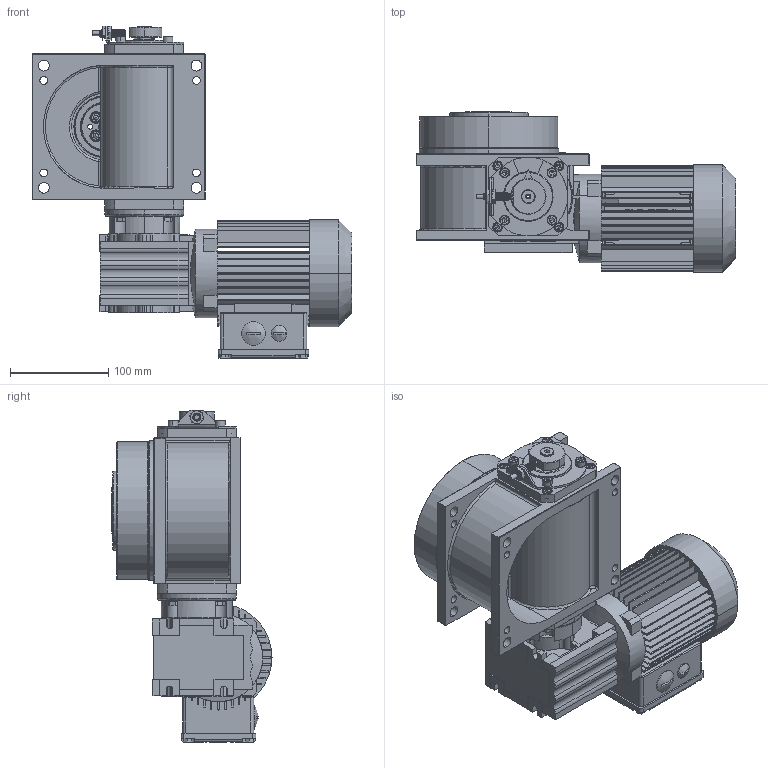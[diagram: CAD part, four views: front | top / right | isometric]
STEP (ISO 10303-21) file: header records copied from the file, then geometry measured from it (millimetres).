
FILE_DESCRIPTION (( 'STEP AP214' ), '1' );
FILE_NAME ('M140_SEW_WAF10DT56L4_D3.STEP', '2021-01-22T15:44:10', ( '' ), ( '' ), 'SwSTEP 2.0', 'SolidWorks 2020', '' );
FILE_SCHEMA (( 'AUTOMOTIVE_DESIGN' ));
Length unit declared in the file: millimetre
Products named in the file (1): M140_SEW_WAF10DT56L4_D3
Bounding box: 325 x 162.7 x 337.29 mm (x, y, z)
Surface area: 389509.5 mm2 (no closed solid volume)
Topology: 0 solids, 48 shells, 1347 faces, 4434 edges, 2956 vertices
Faces by surface type: plane 672, cylinder 480, cone 94, bspline 53, torus 48
Entity records: 68977 total; most frequent: CARTESIAN_POINT 15958, DIRECTION 8012, ORIENTED_EDGE 7479, EDGE_CURVE 4407, VERTEX_POINT 2956, AXIS2_PLACEMENT_3D 2707, VECTOR 2598, LINE 2598
